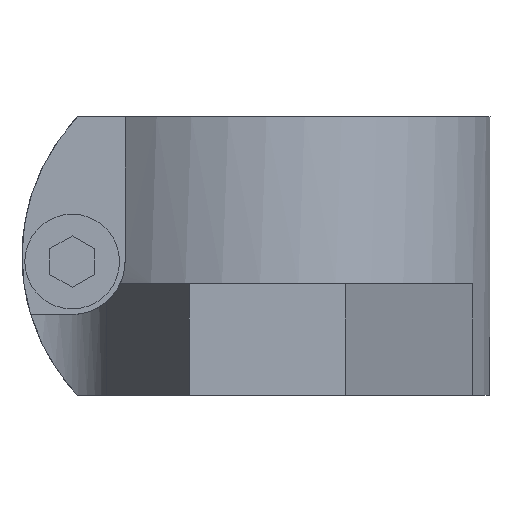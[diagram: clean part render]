
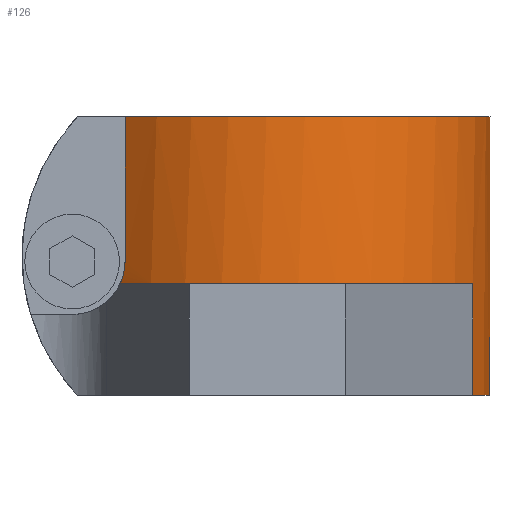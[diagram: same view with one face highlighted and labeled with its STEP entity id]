
A CAD part, left-side view. The second image highlights one B-rep face of the part: STEP entity #126.
In plain terms, the highlighted cylindrical face has radius 20 mm (diameter 40 mm), a partial arc.
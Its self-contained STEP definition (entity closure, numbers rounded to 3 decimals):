
#126=ADVANCED_FACE('',(#173),#174,.T.);
#173=FACE_OUTER_BOUND('',#276,.T.);
#174=CYLINDRICAL_SURFACE('',#277,20.0);
#276=EDGE_LOOP('',(#401,#402,#403,#404,#405,#406,#407,#408,#409));
#277=AXIS2_PLACEMENT_3D('',#410,#411,#412);
#401=ORIENTED_EDGE('',*,*,#725,.F.);
#402=ORIENTED_EDGE('',*,*,#726,.F.);
#403=ORIENTED_EDGE('',*,*,#727,.T.);
#404=ORIENTED_EDGE('',*,*,#728,.T.);
#405=ORIENTED_EDGE('',*,*,#722,.F.);
#406=ORIENTED_EDGE('',*,*,#729,.F.);
#407=ORIENTED_EDGE('',*,*,#730,.T.);
#408=ORIENTED_EDGE('',*,*,#731,.T.);
#409=ORIENTED_EDGE('',*,*,#732,.T.);
#410=CARTESIAN_POINT('',(0.0,0.0,15.0));
#411=DIRECTION('',(-0.0,-0.0,1.0));
#412=DIRECTION('',(0.0,-1.0,0.0));
#722=EDGE_CURVE('',#836,#838,#839,.T.);
#725=EDGE_CURVE('',#843,#844,#845,.T.);
#726=EDGE_CURVE('',#846,#843,#847,.T.);
#727=EDGE_CURVE('',#846,#848,#849,.T.);
#728=EDGE_CURVE('',#848,#838,#850,.T.);
#729=EDGE_CURVE('',#851,#836,#852,.T.);
#730=EDGE_CURVE('',#851,#853,#854,.T.);
#731=EDGE_CURVE('',#853,#855,#856,.T.);
#732=EDGE_CURVE('',#855,#844,#857,.T.);
#836=VERTEX_POINT('',#1038);
#838=VERTEX_POINT('',#1040);
#839=LINE('',#1041,#1042);
#843=VERTEX_POINT('',#1067);
#844=VERTEX_POINT('',#1068);
#845=LINE('',#1069,#1070);
#846=VERTEX_POINT('',#1071);
#847=CIRCLE('',#1072,20.0);
#848=VERTEX_POINT('',#1073);
#849=LINE('',#1074,#1075);
#850=CIRCLE('',#1076,20.0);
#851=VERTEX_POINT('',#1077);
#852=CIRCLE('',#1078,20.0);
#853=VERTEX_POINT('',#1079);
#854=LINE('',#1080,#1081);
#855=VERTEX_POINT('',#1082);
#856=B_SPLINE_CURVE_WITH_KNOTS('',3,(#1083,#1084,#1085,#1086,#1087,#1088,#1089,#1090),.UNSPECIFIED.,.F.,.F.,(4,2,2,4),(0.0,0.001,0.002,0.002),.UNSPECIFIED.);
#857=CIRCLE('',#1091,20.0);
#1038=CARTESIAN_POINT('',(13.75,14.524,15.0));
#1040=CARTESIAN_POINT('',(13.75,14.524,0.0));
#1041=CARTESIAN_POINT('',(13.75,14.524,15.0));
#1042=VECTOR('',#1351,1.0);
#1067=CARTESIAN_POINT('',(-7.74,-18.441,-10.0));
#1068=CARTESIAN_POINT('',(-7.74,-18.441,0.0));
#1069=CARTESIAN_POINT('',(-7.74,-18.441,-10.0));
#1070=VECTOR('',#1355,1.0);
#1071=CARTESIAN_POINT('',(7.74,-18.441,-10.0));
#1072=AXIS2_PLACEMENT_3D('',#1356,#1357,#1358);
#1073=CARTESIAN_POINT('',(7.74,-18.441,0.0));
#1074=CARTESIAN_POINT('',(7.74,-18.441,-10.0));
#1075=VECTOR('',#1359,1.0);
#1076=AXIS2_PLACEMENT_3D('',#1360,#1361,#1362);
#1077=CARTESIAN_POINT('',(-15.409,12.75,15.0));
#1078=AXIS2_PLACEMENT_3D('',#1363,#1364,#1365);
#1079=CARTESIAN_POINT('',(-15.409,12.75,2.));
#1080=CARTESIAN_POINT('',(-15.409,12.75,15.0));
#1081=VECTOR('',#1366,1.0);
#1082=CARTESIAN_POINT('',(-15.033,13.192,0.0));
#1083=CARTESIAN_POINT('',(-15.409,12.75,2.));
#1084=CARTESIAN_POINT('',(-15.409,12.75,1.646));
#1085=CARTESIAN_POINT('',(-15.377,12.789,1.3));
#1086=CARTESIAN_POINT('',(-15.282,12.902,0.795));
#1087=CARTESIAN_POINT('',(-15.242,12.949,0.628));
#1088=CARTESIAN_POINT('',(-15.148,13.059,0.306));
#1089=CARTESIAN_POINT('',(-15.094,13.122,0.151));
#1090=CARTESIAN_POINT('',(-15.033,13.192,0.));
#1091=AXIS2_PLACEMENT_3D('',#1367,#1368,#1369);
#1351=DIRECTION('',(0.0,0.0,-1.0));
#1355=DIRECTION('',(0.0,0.0,1.0));
#1356=CARTESIAN_POINT('',(0.0,0.0,-10.0));
#1357=DIRECTION('',(0.0,0.0,-1.0));
#1358=DIRECTION('',(1.0,0.0,0.0));
#1359=DIRECTION('',(0.0,0.0,1.0));
#1360=CARTESIAN_POINT('',(0.0,0.0,0.0));
#1361=DIRECTION('',(0.0,0.0,1.0));
#1362=DIRECTION('',(1.0,0.0,0.0));
#1363=CARTESIAN_POINT('',(0.0,0.0,15.0));
#1364=DIRECTION('',(0.0,0.0,1.0));
#1365=DIRECTION('',(1.0,0.0,0.0));
#1366=DIRECTION('',(0.0,0.0,-1.0));
#1367=CARTESIAN_POINT('',(0.0,0.0,0.0));
#1368=DIRECTION('',(0.0,0.0,1.0));
#1369=DIRECTION('',(1.0,0.0,0.0));
